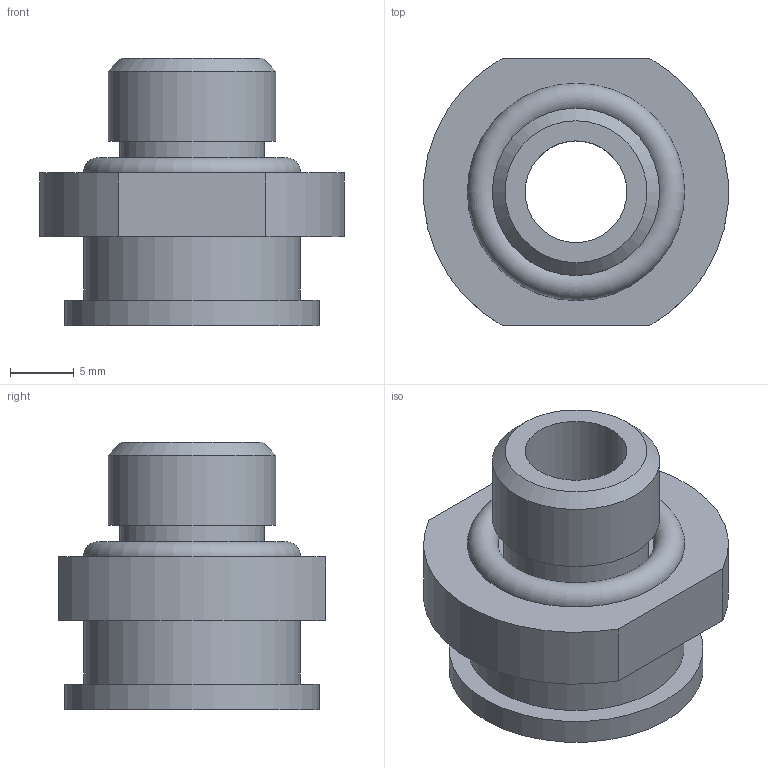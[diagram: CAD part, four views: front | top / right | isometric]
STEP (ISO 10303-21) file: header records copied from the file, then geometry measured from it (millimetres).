
FILE_DESCRIPTION(('STEP AP214'),'1');
FILE_NAME('.stp','2024-08-29T05:32:55',(' '),(' '),'Spatial InterOp 3D',' ',' ');
FILE_SCHEMA(('AUTOMOTIVE_DESIGN { 1 0 10303 214 1 1 1 1 }'));
Length unit declared in the file: millimetre
Products named in the file (2): HGL-30-G2-K; パーツ1
Assembly tree (1 placements, depth 2):
  HGL-30-G2-K
    パーツ1
Bounding box: 23.92 x 21 x 21 mm (x, y, z)
Volume: 3826.3 mm3; surface area: 2842.4 mm2
Topology: 1 solids, 1 shells, 20 faces, 36 edges, 24 vertices
Faces by surface type: plane 10, cylinder 8, torus 1, cone 1
Full cylindrical faces by diameter (mm): 8 x1, 10 x1, 11.4 x1, 13.157 x1, 17 x1, 20 x1
Entity records: 688 total; most frequent: CARTESIAN_POINT 106, DIRECTION 88, ORIENTED_EDGE 54, AXIS2_PLACEMENT_3D 40, EDGE_LOOP 36, FACE_OUTER_BOUND 27, EDGE_CURVE 27, VERTEX_POINT 23
